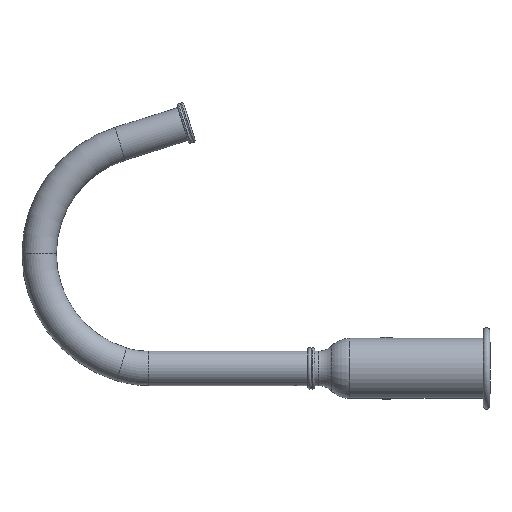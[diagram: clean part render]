
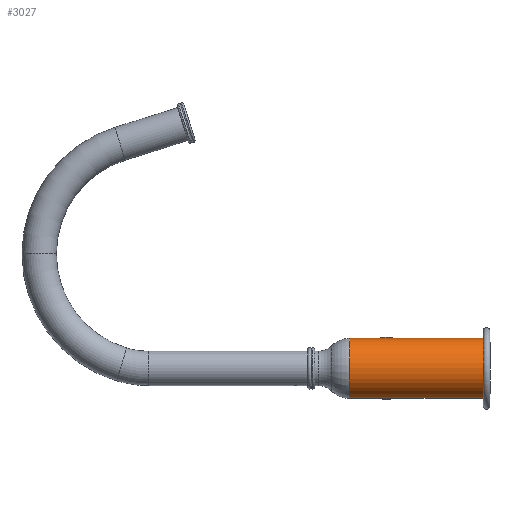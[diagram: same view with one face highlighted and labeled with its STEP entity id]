
A CAD part, left-side view. The second image highlights one B-rep face of the part: STEP entity #3027.
In plain terms, the highlighted cylindrical face has radius 17.5 mm (diameter 35 mm), a partial arc.
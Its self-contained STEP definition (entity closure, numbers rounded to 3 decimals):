
#95 = DIRECTION ( 'NONE',  ( 0., -1., 0. ) ) ;
#871 = CARTESIAN_POINT ( 'NONE',  ( -16.165, -63.585, -17.5 ) ) ;
#1271 = LINE ( 'NONE', #4900, #10407 ) ;
#1383 = CIRCLE ( 'NONE', #10039, 17.5 ) ;
#1534 = CARTESIAN_POINT ( 'NONE',  ( -16.165, -63.585, 17.5 ) ) ;
#1648 = DIRECTION ( 'NONE',  ( 0., -1., 0. ) ) ;
#2026 = ORIENTED_EDGE ( 'NONE', *, *, #2255, .F. ) ;
#2175 = AXIS2_PLACEMENT_3D ( 'NONE', #6278, #95, #9860 ) ;
#2255 = EDGE_CURVE ( 'NONE', #8301, #9408, #1271, .T. ) ;
#2686 = EDGE_CURVE ( 'NONE', #6031, #10170, #3138, .T. ) ;
#2853 = DIRECTION ( 'NONE',  ( 0., 1., 0. ) ) ;
#2943 = CARTESIAN_POINT ( 'NONE',  ( -16.165, 13.954, 17.5 ) ) ;
#3027 = ADVANCED_FACE ( 'NONE', ( #10267 ), #5018, .T. ) ;
#3132 = EDGE_LOOP ( 'NONE', ( #2026, #9644, #10386, #3327 ) ) ;
#3138 = LINE ( 'NONE', #6767, #3514 ) ;
#3271 = DIRECTION ( 'NONE',  ( 0., 0., -1. ) ) ;
#3327 = ORIENTED_EDGE ( 'NONE', *, *, #8974, .T. ) ;
#3514 = VECTOR ( 'NONE', #10289, 1000. ) ;
#4083 = DIRECTION ( 'NONE',  ( 0., -1., 0. ) ) ;
#4367 = AXIS2_PLACEMENT_3D ( 'NONE', #11139, #1648, #3271 ) ;
#4730 = CARTESIAN_POINT ( 'NONE',  ( -16.165, -63.585, 0. ) ) ;
#4900 = CARTESIAN_POINT ( 'NONE',  ( -16.165, -67.585, 17.5 ) ) ;
#5018 = CYLINDRICAL_SURFACE ( 'NONE', #2175, 17.5 ) ;
#6031 = VERTEX_POINT ( 'NONE', #10123 ) ;
#6278 = CARTESIAN_POINT ( 'NONE',  ( -16.165, -67.585, 0. ) ) ;
#6767 = CARTESIAN_POINT ( 'NONE',  ( -16.165, -67.585, -17.5 ) ) ;
#8301 = VERTEX_POINT ( 'NONE', #2943 ) ;
#8974 = EDGE_CURVE ( 'NONE', #10170, #9408, #1383, .T. ) ;
#9379 = EDGE_CURVE ( 'NONE', #8301, #6031, #10261, .T. ) ;
#9408 = VERTEX_POINT ( 'NONE', #1534 ) ;
#9644 = ORIENTED_EDGE ( 'NONE', *, *, #9379, .T. ) ;
#9860 = DIRECTION ( 'NONE',  ( 0., 0., -1. ) ) ;
#9874 = DIRECTION ( 'NONE',  ( 0., 0., -1. ) ) ;
#10039 = AXIS2_PLACEMENT_3D ( 'NONE', #4730, #2853, #9874 ) ;
#10123 = CARTESIAN_POINT ( 'NONE',  ( -16.165, 13.954, -17.5 ) ) ;
#10170 = VERTEX_POINT ( 'NONE', #871 ) ;
#10261 = CIRCLE ( 'NONE', #4367, 17.5 ) ;
#10267 = FACE_OUTER_BOUND ( 'NONE', #3132, .T. ) ;
#10289 = DIRECTION ( 'NONE',  ( 0., -1., 0. ) ) ;
#10386 = ORIENTED_EDGE ( 'NONE', *, *, #2686, .T. ) ;
#10407 = VECTOR ( 'NONE', #4083, 1000. ) ;
#11139 = CARTESIAN_POINT ( 'NONE',  ( -16.165, 13.954, 0. ) ) ;
